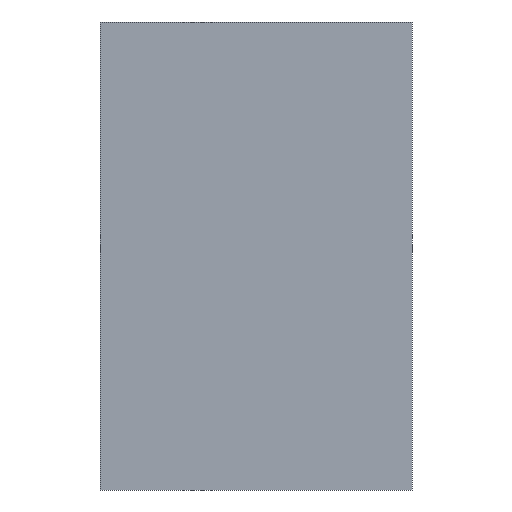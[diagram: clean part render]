
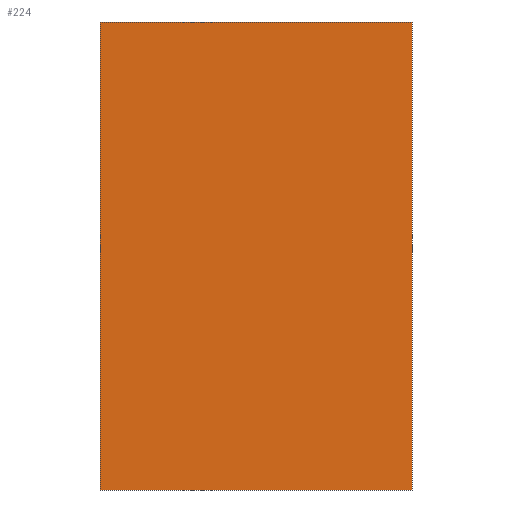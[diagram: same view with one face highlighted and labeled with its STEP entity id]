
A CAD part, front view. The second image highlights one B-rep face of the part: STEP entity #224.
In plain terms, the highlighted planar face has unit normal (0, -1, 0).
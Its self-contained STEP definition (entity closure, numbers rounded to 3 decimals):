
#4 = DIRECTION ( 'NONE',  ( -1., 0., 0. ) ) ;
#6 = FACE_OUTER_BOUND ( 'NONE', #293, .T. ) ;
#36 = LINE ( 'NONE', #360, #402 ) ;
#43 = VERTEX_POINT ( 'NONE', #48 ) ;
#48 = CARTESIAN_POINT ( 'NONE',  ( 0., 0., 1350. ) ) ;
#51 = CARTESIAN_POINT ( 'NONE',  ( 0., 0., 0. ) ) ;
#53 = CARTESIAN_POINT ( 'NONE',  ( 0., 0., 1350. ) ) ;
#66 = EDGE_CURVE ( 'NONE', #625, #191, #539, .T. ) ;
#75 = CARTESIAN_POINT ( 'NONE',  ( 0., 0., 0. ) ) ;
#93 = ORIENTED_EDGE ( 'NONE', *, *, #164, .F. ) ;
#94 = VERTEX_POINT ( 'NONE', #245 ) ;
#98 = DIRECTION ( 'NONE',  ( 0., 0., -1. ) ) ;
#100 = LINE ( 'NONE', #450, #584 ) ;
#164 = EDGE_CURVE ( 'NONE', #43, #625, #247, .T. ) ;
#191 = VERTEX_POINT ( 'NONE', #340 ) ;
#207 = ORIENTED_EDGE ( 'NONE', *, *, #378, .T. ) ;
#214 = VECTOR ( 'NONE', #98, 1000. ) ;
#224 = ADVANCED_FACE ( 'NONE', ( #6 ), #476, .T. ) ;
#241 = DIRECTION ( 'NONE',  ( 1., 0., 0. ) ) ;
#244 = CARTESIAN_POINT ( 'NONE',  ( 0., 0., 1350. ) ) ;
#245 = CARTESIAN_POINT ( 'NONE',  ( -900., 0., 1350. ) ) ;
#247 = LINE ( 'NONE', #244, #214 ) ;
#257 = EDGE_CURVE ( 'NONE', #94, #191, #100, .T. ) ;
#267 = DIRECTION ( 'NONE',  ( -1., 0., 0. ) ) ;
#293 = EDGE_LOOP ( 'NONE', ( #392, #93, #207, #341 ) ) ;
#340 = CARTESIAN_POINT ( 'NONE',  ( -900., 0., 0. ) ) ;
#341 = ORIENTED_EDGE ( 'NONE', *, *, #257, .T. ) ;
#342 = AXIS2_PLACEMENT_3D ( 'NONE', #53, #386, #241 ) ;
#360 = CARTESIAN_POINT ( 'NONE',  ( 0., 0., 1350. ) ) ;
#378 = EDGE_CURVE ( 'NONE', #43, #94, #36, .T. ) ;
#386 = DIRECTION ( 'NONE',  ( 0., -1., 0. ) ) ;
#392 = ORIENTED_EDGE ( 'NONE', *, *, #66, .F. ) ;
#402 = VECTOR ( 'NONE', #267, 1000. ) ;
#450 = CARTESIAN_POINT ( 'NONE',  ( -900., 0., 1350. ) ) ;
#476 = PLANE ( 'NONE',  #342 ) ;
#512 = VECTOR ( 'NONE', #4, 1000. ) ;
#539 = LINE ( 'NONE', #51, #512 ) ;
#584 = VECTOR ( 'NONE', #617, 1000. ) ;
#617 = DIRECTION ( 'NONE',  ( 0., 0., -1. ) ) ;
#625 = VERTEX_POINT ( 'NONE', #75 ) ;
